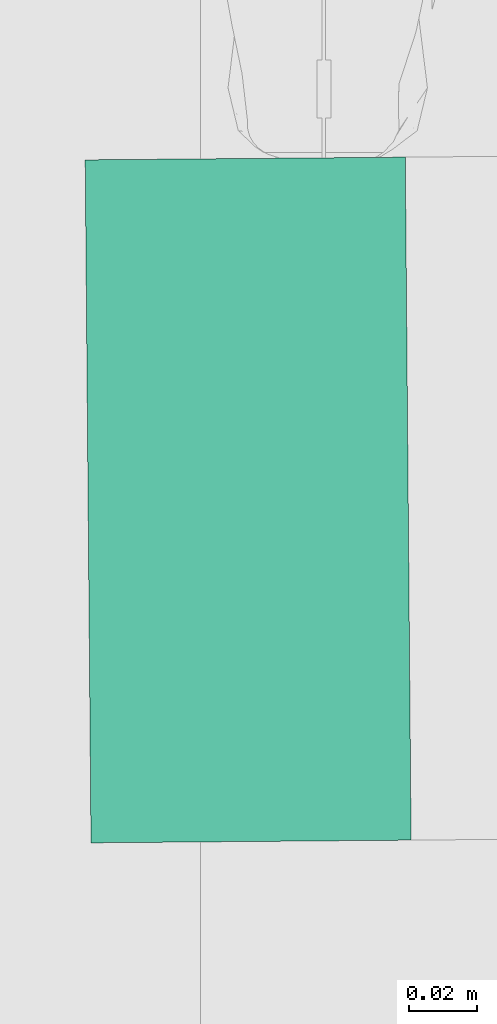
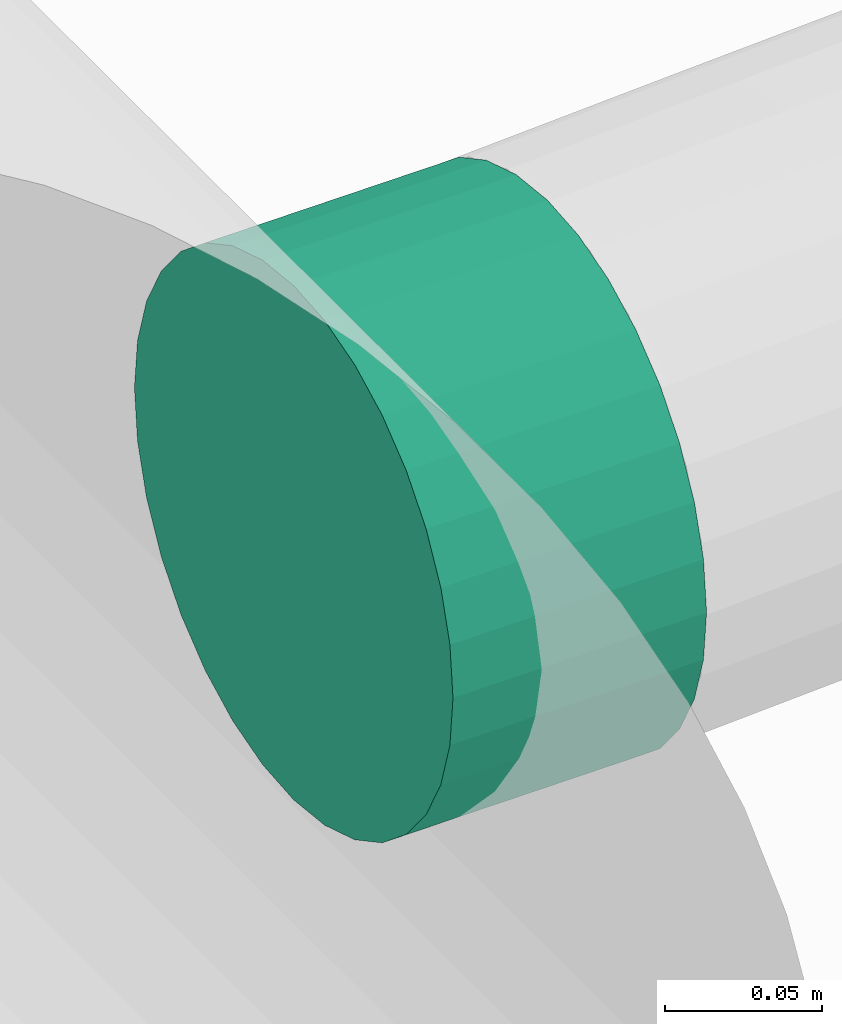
# One storey, part 14 of 31: 1 flow fitting.
"""IFC2X3 building model written with IfcOpenShell, lengths in millimetres."""

from ifc_helpers import new_model, entity, si_unit, converted_unit, derived_unit, direction, frame, frame_2d, origin, place, context, subcontext, project, spatial, circle, extrude, source, transform, mapped, material, material_list, type_object, type_shapes, element, save


model = new_model("IFC2X3")

# Units and contexts
model_context = context("Model", 3, precision=0.01, world=origin(), true_north=direction((6.123031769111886e-17, 1.0)))
body_context = subcontext(model_context, "Body", "Model", "MODEL_VIEW")
ifc_project = project(units=[si_unit("LENGTHUNIT", "METRE", prefix="MILLI"), si_unit("AREAUNIT", "SQUARE_METRE"), si_unit("VOLUMEUNIT", "CUBIC_METRE"), converted_unit("PLANEANGLEUNIT", "DEGREE", entity("IfcRatioMeasure", 0.017453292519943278), si_unit("PLANEANGLEUNIT", "RADIAN"), dimensions=[0, 0, 0, 0, 0, 0, 0]), si_unit("MASSUNIT", "GRAM", prefix="KILO"), derived_unit("MASSDENSITYUNIT", [(si_unit("MASSUNIT", "GRAM", prefix="KILO"), 1), (si_unit("LENGTHUNIT", "METRE"), -3)]), derived_unit("MOMENTOFINERTIAUNIT", [(si_unit("LENGTHUNIT", "METRE"), 4)]), si_unit("TIMEUNIT", "SECOND"), si_unit("FREQUENCYUNIT", "HERTZ"), si_unit("THERMODYNAMICTEMPERATUREUNIT", "DEGREE_CELSIUS"), derived_unit("THERMALTRANSMITTANCEUNIT", [(si_unit("MASSUNIT", "GRAM", prefix="KILO"), 1), (si_unit("THERMODYNAMICTEMPERATUREUNIT", "KELVIN"), -1), (si_unit("TIMEUNIT", "SECOND"), -3)]), derived_unit("VOLUMETRICFLOWRATEUNIT", [(si_unit("LENGTHUNIT", "METRE"), 3), (si_unit("TIMEUNIT", "SECOND"), -1)]), derived_unit("MASSFLOWRATEUNIT", [(si_unit("MASSUNIT", "GRAM", prefix="KILO"), 1), (si_unit("TIMEUNIT", "SECOND"), -1)]), derived_unit("ROTATIONALFREQUENCYUNIT", [(si_unit("TIMEUNIT", "SECOND"), -1)]), si_unit("ELECTRICCURRENTUNIT", "AMPERE"), si_unit("ELECTRICVOLTAGEUNIT", "VOLT"), si_unit("POWERUNIT", "WATT"), si_unit("FORCEUNIT", "NEWTON", prefix="KILO"), si_unit("ILLUMINANCEUNIT", "LUX"), si_unit("LUMINOUSFLUXUNIT", "LUMEN"), si_unit("LUMINOUSINTENSITYUNIT", "CANDELA"), derived_unit("USERDEFINED", [(si_unit("MASSUNIT", "GRAM", prefix="KILO"), -1), (si_unit("LENGTHUNIT", "METRE"), -2), (si_unit("TIMEUNIT", "SECOND"), 3), (si_unit("LUMINOUSFLUXUNIT", "LUMEN"), 1)]), derived_unit("SOUNDPOWERUNIT", [(si_unit("MASSUNIT", "GRAM", prefix="KILO"), 1), (si_unit("LENGTHUNIT", "METRE"), 2), (si_unit("TIMEUNIT", "SECOND"), -3)]), derived_unit("SOUNDPRESSUREUNIT", [(si_unit("MASSUNIT", "GRAM", prefix="KILO"), 1), (si_unit("LENGTHUNIT", "METRE"), -1), (si_unit("TIMEUNIT", "SECOND"), -2)]), derived_unit("LINEARVELOCITYUNIT", [(si_unit("LENGTHUNIT", "METRE"), 1), (si_unit("TIMEUNIT", "SECOND"), -1)]), si_unit("PRESSUREUNIT", "PASCAL"), derived_unit("USERDEFINED", [(si_unit("LENGTHUNIT", "METRE"), -2), (si_unit("MASSUNIT", "GRAM", prefix="KILO"), 1), (si_unit("TIMEUNIT", "SECOND"), -2)]), derived_unit("LINEARFORCEUNIT", [(si_unit("MASSUNIT", "GRAM", prefix="KILO"), 1), (si_unit("LENGTHUNIT", "METRE"), 1), (si_unit("TIMEUNIT", "SECOND"), -2), (si_unit("LENGTHUNIT", "METRE"), -1)]), derived_unit("PLANARFORCEUNIT", [(si_unit("MASSUNIT", "GRAM", prefix="KILO"), 1), (si_unit("LENGTHUNIT", "METRE"), 1), (si_unit("TIMEUNIT", "SECOND"), -2), (si_unit("LENGTHUNIT", "METRE"), -2)])], contexts=[model_context])

# Site, building, storey
site_placement = place(None, origin())
site = spatial("IfcSite", under=ifc_project, at=site_placement, Name="Default", CompositionType="ELEMENT")
building_placement = place(site_placement, origin())
building = spatial("IfcBuilding", under=site, at=building_placement, CompositionType="ELEMENT")
storey_placement = place(building_placement, frame((0.0, 0.0, 3880.0)))
storey = spatial("IfcBuildingStorey", under=building, at=storey_placement, Name="Niveau 1", CompositionType="ELEMENT", Elevation=3880.0)

# Flow fitting
ifc_material = material(Name="<Unnamed>")
ifc_material_list_1 = material_list([ifc_material, ifc_material, ifc_material])
ifc_material_list_2 = material_list([ifc_material, ifc_material, ifc_material])
duct_fitting_type = type_object("IfcDuctFittingType", Name="Piquage Aldes:Standard", PredefinedType="NOTDEFINED", material=ifc_material_list_2)
shared_shape = source(origin(), body_context, "Body", "SweptSolid", [
    extrude(circle(Radius=99.99999999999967, at=frame_2d((-2.057646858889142e-13, -7.948734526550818e-14), x_axis=(1.0, 0.0))), frame((10.849088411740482, 0.0, 0.0), z_axis=(1.0, 0.0, 0.0), x_axis=(0.0, -1.0, 0.0)), (0.0, 0.0, 1.0), 50.00000000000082),
    extrude(circle(Radius=99.99999999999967, at=frame_2d((-2.057646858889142e-13, -7.948734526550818e-14), x_axis=(1.0, 0.0))), frame((0.0, 0.0, 0.0), z_axis=(1.0, 0.0, 0.0), x_axis=(0.0, -1.0, 0.0)), (0.0, 0.0, 1.0), 10.84908841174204),
    extrude(circle(Radius=99.99999999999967, at=frame_2d((-2.0643978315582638e-13, -2.426887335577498e-13), x_axis=(1.0, 0.0))), frame((-32.89188511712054, 0.0, 0.0), z_axis=(1.0, 0.0, 0.0), x_axis=(0.0, -1.0, 0.0)), (0.0, 0.0, 1.0), 32.89188511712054),
])
type_shapes(duct_fitting_type, [shared_shape])
flow_fitting_placement = place(storey_placement, frame((-1995.0, -9935.731346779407, 3150.0), z_axis=(0.0, 0.0, -1.0), x_axis=(0.9999639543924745, 0.008490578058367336, 0.0)))
element("IfcFlowFitting", 1, at=flow_fitting_placement, inside=storey, type_object=duct_fitting_type, material=ifc_material_list_1, Name="Piquage Aldes:Standard", ObjectType="Piquage Aldes:Standard", context=body_context, shape_type="MappedRepresentation", body=[
    mapped(shared_shape, transform((0.0, 0.0, 0.0), scale=1.0)),
])

save(model, "model.ifc")
